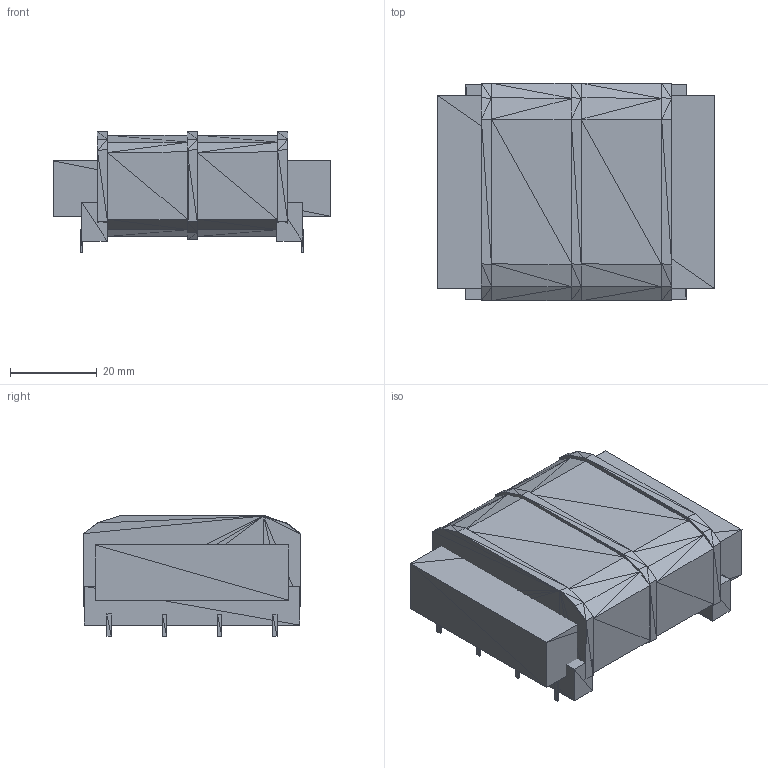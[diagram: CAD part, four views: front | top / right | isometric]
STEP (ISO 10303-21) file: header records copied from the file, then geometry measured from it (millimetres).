
FILE_DESCRIPTION(('HOOPS Exchange Step'),'2;1');
FILE_NAME('***.stp');
FILE_SCHEMA( ('AP242_MANAGED_MODEL_BASED_3D_ENGINEERING_MIM_LF {1 0 10303 442 1 1 4 }') );
Length unit declared in the file: inch
Products named in the file (17): XFRMPCB229B24_2; XFRMPCB229B24_3; XFRMPCB229B24_4; XFRMPCB229B24_5; XFRMPCB229B24_6; XFRMPCB229B24_7; XFRMPCB229B24_8; XFRMPCB229B24_9; XFRMPCB229B24_10; XFRMPCB229B24_11; XFRMPCB229B24_12; XFRMPCB229B24_13; XFRMPCB229B24_14; XFRMPCB229B24_15; XFRMPCB229B24_16; XFRMPCB229B24_17; XFRMPCB229B24
Assembly tree (16 placements, depth 2):
  XFRMPCB229B24
    XFRMPCB229B24_2
    XFRMPCB229B24_3
    XFRMPCB229B24_4
    XFRMPCB229B24_5
    XFRMPCB229B24_6
    XFRMPCB229B24_7
    XFRMPCB229B24_8
    XFRMPCB229B24_9
    XFRMPCB229B24_10
    XFRMPCB229B24_11
    XFRMPCB229B24_12
    XFRMPCB229B24_13
    XFRMPCB229B24_14
    XFRMPCB229B24_15
    XFRMPCB229B24_16
    XFRMPCB229B24_17
Bounding box: 63.5 x 50.02 x 27.65 mm (x, y, z)
Volume: 41019.3 mm3; surface area: 46601.8 mm2
Topology: 11 solids, 451 shells, 572 faces, 528 edges, 208 vertices
Faces by surface type: plane 572
Entity records: 10069 total; most frequent: DIRECTION 1740, ORIENTED_EDGE 1716, CARTESIAN_POINT 1342, AXIS2_PLACEMENT_3D 606, PLANE 572, EDGE_LOOP 572, FACE_BOUND 572, ADVANCED_FACE 572
